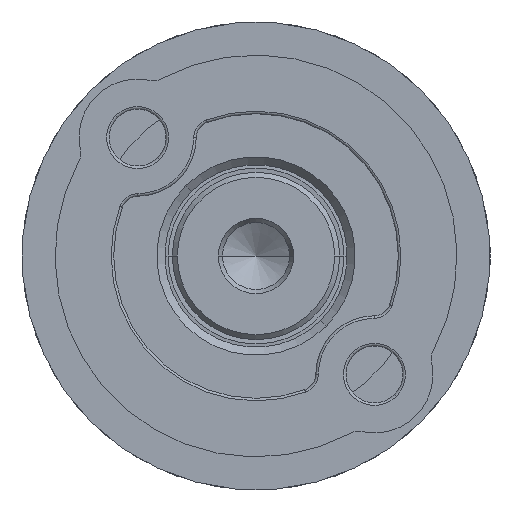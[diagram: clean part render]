
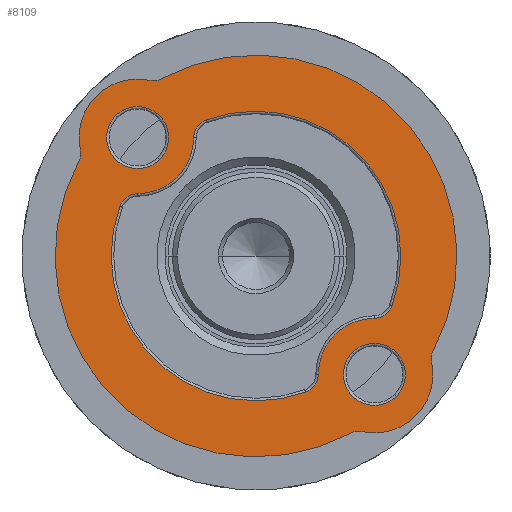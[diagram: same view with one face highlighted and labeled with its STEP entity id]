
A CAD part, left-side view. The second image highlights one B-rep face of the part: STEP entity #8109.
In plain terms, the highlighted planar face has unit normal (-1, 0, 0).
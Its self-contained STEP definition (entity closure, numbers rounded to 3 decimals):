
#5858=CARTESIAN_POINT('',(-2.05,-10.,0.));
#5859=DIRECTION('',(-1.,0.,0.));
#5860=DIRECTION('',(0.,-0.542,-0.841));
#5861=AXIS2_PLACEMENT_3D('',#5858,#5859,#5860);
#5866=CARTESIAN_POINT('',(-2.05,0.,0.));
#5867=DIRECTION('',(-1.,0.,0.));
#5868=DIRECTION('',(0.,0.957,-0.291));
#5869=AXIS2_PLACEMENT_3D('',#5866,#5867,#5868);
#5874=CARTESIAN_POINT('',(-2.05,10.,0.));
#5875=DIRECTION('',(-1.,0.,0.));
#5876=DIRECTION('',(0.,0.542,0.841));
#5877=AXIS2_PLACEMENT_3D('',#5874,#5875,#5876);
#5882=CARTESIAN_POINT('',(-2.05,0.,0.));
#5883=DIRECTION('',(-1.,0.,0.));
#5884=DIRECTION('',(0.,-0.957,0.291));
#5885=AXIS2_PLACEMENT_3D('',#5882,#5883,#5884);
#5890=CARTESIAN_POINT('',(-2.05,10.,0.));
#5891=DIRECTION('',(-1.,0.,0.));
#5892=DIRECTION('',(0.,-0.711,-0.703));
#5893=AXIS2_PLACEMENT_3D('',#5890,#5891,#5892);
#5898=CARTESIAN_POINT('',(-2.05,6.8,-3.164));
#5899=DIRECTION('',(1.,0.,0.));
#5900=DIRECTION('',(0.,0.907,-0.422));
#5901=AXIS2_PLACEMENT_3D('',#5898,#5899,#5900);
#5906=CARTESIAN_POINT('',(-2.05,0.,0.));
#5907=DIRECTION('',(1.,0.,0.));
#5908=DIRECTION('',(0.,-0.907,-0.422));
#5909=AXIS2_PLACEMENT_3D('',#5906,#5907,#5908);
#5914=CARTESIAN_POINT('',(-2.05,-6.8,-3.164));
#5915=DIRECTION('',(1.,0.,0.));
#5916=DIRECTION('',(0.,-0.711,0.703));
#5917=AXIS2_PLACEMENT_3D('',#5914,#5915,#5916);
#5922=CARTESIAN_POINT('',(-2.05,-10.,0.));
#5923=DIRECTION('',(-1.,0.,0.));
#5924=DIRECTION('',(0.,0.711,0.703));
#5925=AXIS2_PLACEMENT_3D('',#5922,#5923,#5924);
#5930=CARTESIAN_POINT('',(-2.05,-6.8,3.164));
#5931=DIRECTION('',(1.,0.,0.));
#5932=DIRECTION('',(0.,-0.907,0.422));
#5933=AXIS2_PLACEMENT_3D('',#5930,#5931,#5932);
#5938=CARTESIAN_POINT('',(-2.05,0.,0.));
#5939=DIRECTION('',(1.,0.,0.));
#5940=DIRECTION('',(0.,0.907,0.422));
#5941=AXIS2_PLACEMENT_3D('',#5938,#5939,#5940);
#5946=CARTESIAN_POINT('',(-2.05,6.8,3.164));
#5947=DIRECTION('',(1.,0.,0.));
#5948=DIRECTION('',(0.,0.711,-0.703));
#5949=AXIS2_PLACEMENT_3D('',#5946,#5947,#5948);
#5954=CARTESIAN_POINT('',(-2.05,-10.,0.));
#5955=DIRECTION('',(1.,0.,0.));
#5956=DIRECTION('',(0.,-1.,0.));
#5957=AXIS2_PLACEMENT_3D('',#5954,#5955,#5956);
#5962=CARTESIAN_POINT('',(-2.05,-10.,0.));
#5963=DIRECTION('',(1.,0.,0.));
#5964=DIRECTION('',(0.,1.,0.));
#5965=AXIS2_PLACEMENT_3D('',#5962,#5963,#5964);
#5970=CARTESIAN_POINT('',(-2.05,10.,0.));
#5971=DIRECTION('',(1.,0.,0.));
#5972=DIRECTION('',(0.,-1.,0.));
#5973=AXIS2_PLACEMENT_3D('',#5970,#5971,#5972);
#5978=CARTESIAN_POINT('',(-2.05,10.,0.));
#5979=DIRECTION('',(1.,0.,0.));
#5980=DIRECTION('',(0.,1.,0.));
#5981=AXIS2_PLACEMENT_3D('',#5978,#5979,#5980);
#6000=CARTESIAN_POINT('',(-2.05,-12.438,-3.783));
#6001=DIRECTION('',(1.,0.,0.));
#6002=DIRECTION('',(0.,0.957,0.291));
#6003=AXIS2_PLACEMENT_3D('',#6000,#6001,#6002);
#6022=CARTESIAN_POINT('',(-2.05,12.438,-3.783));
#6023=DIRECTION('',(1.,0.,0.));
#6024=DIRECTION('',(0.,-0.542,0.841));
#6025=AXIS2_PLACEMENT_3D('',#6022,#6023,#6024);
#6044=CARTESIAN_POINT('',(-2.05,12.438,3.783));
#6045=DIRECTION('',(1.,0.,0.));
#6046=DIRECTION('',(0.,-0.957,-0.291));
#6047=AXIS2_PLACEMENT_3D('',#6044,#6045,#6046);
#6066=CARTESIAN_POINT('',(-2.05,-12.438,3.783));
#6067=DIRECTION('',(1.,0.,0.));
#6068=DIRECTION('',(0.,0.542,-0.841));
#6069=AXIS2_PLACEMENT_3D('',#6066,#6067,#6068);
#7295=CARTESIAN_POINT('',(-2.05,11.896,-2.942));
#7296=VERTEX_POINT('',#7295);
#7297=CARTESIAN_POINT('',(-2.05,11.481,-3.492));
#7298=VERTEX_POINT('',#7297);
#7303=CARTESIAN_POINT('',(-2.05,11.481,3.492));
#7304=VERTEX_POINT('',#7303);
#7305=CARTESIAN_POINT('',(-2.05,11.896,2.942));
#7306=VERTEX_POINT('',#7305);
#7311=CARTESIAN_POINT('',(-2.05,-11.896,2.942));
#7312=VERTEX_POINT('',#7311);
#7313=CARTESIAN_POINT('',(-2.05,-11.481,3.492));
#7314=VERTEX_POINT('',#7313);
#7319=CARTESIAN_POINT('',(-2.05,-11.481,-3.492));
#7320=VERTEX_POINT('',#7319);
#7321=CARTESIAN_POINT('',(-2.05,-11.896,-2.942));
#7322=VERTEX_POINT('',#7321);
#7423=CARTESIAN_POINT('',(-2.05,7.618,-2.355));
#7424=CARTESIAN_POINT('',(-2.05,7.618,2.355));
#7425=VERTEX_POINT('',#7423);
#7426=VERTEX_POINT('',#7424);
#7427=CARTESIAN_POINT('',(-2.05,7.843,
-3.649));
#7428=VERTEX_POINT('',#7427);
#7431=CARTESIAN_POINT('',(-2.05,-7.843,-3.649));
#7432=VERTEX_POINT('',#7431);
#7435=CARTESIAN_POINT('',(-2.05,-11.85,0.));
#7436=CARTESIAN_POINT('',(-2.05,-8.15,0.));
#7437=VERTEX_POINT('',#7435);
#7438=VERTEX_POINT('',#7436);
#7443=CARTESIAN_POINT('',(-2.05,8.15,0.));
#7444=CARTESIAN_POINT('',(-2.05,11.85,0.));
#7445=VERTEX_POINT('',#7443);
#7446=VERTEX_POINT('',#7444);
#7555=CARTESIAN_POINT('',(-2.05,-7.618,2.355));
#7556=CARTESIAN_POINT('',(-2.05,-7.618,-2.355));
#7557=VERTEX_POINT('',#7555);
#7558=VERTEX_POINT('',#7556);
#7563=CARTESIAN_POINT('',(-2.05,7.843,3.649));
#7564=VERTEX_POINT('',#7563);
#7567=CARTESIAN_POINT('',(-2.05,-7.843,3.649));
#7568=VERTEX_POINT('',#7567);
#8057=CARTESIAN_POINT('',(-2.05,0.,0.));
#8058=DIRECTION('',(1.,0.,0.));
#8059=DIRECTION('',(0.,-1.,0.));
#8060=AXIS2_PLACEMENT_3D('',#8057,#8058,#8059);
#8061=PLANE('',#8060);
#8063=ORIENTED_EDGE('',*,*,#8062,.F.);
#8065=ORIENTED_EDGE('',*,*,#8064,.F.);
#8067=ORIENTED_EDGE('',*,*,#8066,.F.);
#8069=ORIENTED_EDGE('',*,*,#8068,.F.);
#8071=ORIENTED_EDGE('',*,*,#8070,.F.);
#8073=ORIENTED_EDGE('',*,*,#8072,.F.);
#8075=ORIENTED_EDGE('',*,*,#8074,.F.);
#8077=ORIENTED_EDGE('',*,*,#8076,.F.);
#8078=EDGE_LOOP('',(#8063,#8065,#8067,#8069,#8071,#8073,#8075,#8077));
#8079=FACE_OUTER_BOUND('',#8078,.F.);
#8081=ORIENTED_EDGE('',*,*,#8080,.F.);
#8083=ORIENTED_EDGE('',*,*,#8082,.F.);
#8085=ORIENTED_EDGE('',*,*,#8084,.F.);
#8087=ORIENTED_EDGE('',*,*,#8086,.F.);
#8089=ORIENTED_EDGE('',*,*,#8088,.F.);
#8091=ORIENTED_EDGE('',*,*,#8090,.F.);
#8093=ORIENTED_EDGE('',*,*,#8092,.F.);
#8095=ORIENTED_EDGE('',*,*,#8094,.F.);
#8096=EDGE_LOOP('',(#8081,#8083,#8085,#8087,#8089,#8091,#8093,#8095));
#8097=FACE_BOUND('',#8096,.F.);
#8099=ORIENTED_EDGE('',*,*,#8098,.F.);
#8101=ORIENTED_EDGE('',*,*,#8100,.F.);
#8102=EDGE_LOOP('',(#8099,#8101));
#8103=FACE_BOUND('',#8102,.F.);
#8105=ORIENTED_EDGE('',*,*,#8104,.F.);
#8106=ORIENTED_EDGE('',*,*,#8047,.F.);
#8107=EDGE_LOOP('',(#8105,#8106));
#8108=FACE_BOUND('',#8107,.F.);
#5862=CIRCLE('',#5861,3.5);
#5870=CIRCLE('',#5869,12.);
#5878=CIRCLE('',#5877,3.5);
#5886=CIRCLE('',#5885,12.);
#5894=CIRCLE('',#5893,3.35);
#5902=CIRCLE('',#5901,1.15);
#5910=CIRCLE('',#5909,8.65);
#5918=CIRCLE('',#5917,1.15);
#5926=CIRCLE('',#5925,3.35);
#5934=CIRCLE('',#5933,1.15);
#5942=CIRCLE('',#5941,8.65);
#5950=CIRCLE('',#5949,1.15);
#5958=CIRCLE('',#5957,1.85);
#5966=CIRCLE('',#5965,1.85);
#5974=CIRCLE('',#5973,1.85);
#5982=CIRCLE('',#5981,1.85);
#6004=CIRCLE('',#6003,1.);
#6026=CIRCLE('',#6025,1.);
#6048=CIRCLE('',#6047,1.);
#6070=CIRCLE('',#6069,1.);
#8047=EDGE_CURVE('',#7446,#7445,#5982,.T.);
#8062=EDGE_CURVE('',#7322,#7312,#5862,.T.);
#8064=EDGE_CURVE('',#7320,#7322,#6004,.T.);
#8066=EDGE_CURVE('',#7298,#7320,#5870,.T.);
#8068=EDGE_CURVE('',#7296,#7298,#6026,.T.);
#8070=EDGE_CURVE('',#7306,#7296,#5878,.T.);
#8072=EDGE_CURVE('',#7304,#7306,#6048,.T.);
#8074=EDGE_CURVE('',#7314,#7304,#5886,.T.);
#8076=EDGE_CURVE('',#7312,#7314,#6070,.T.);
#8080=EDGE_CURVE('',#7425,#7426,#5894,.T.);
#8082=EDGE_CURVE('',#7428,#7425,#5902,.T.);
#8084=EDGE_CURVE('',#7432,#7428,#5910,.T.);
#8086=EDGE_CURVE('',#7558,#7432,#5918,.T.);
#8088=EDGE_CURVE('',#7557,#7558,#5926,.T.);
#8090=EDGE_CURVE('',#7568,#7557,#5934,.T.);
#8092=EDGE_CURVE('',#7564,#7568,#5942,.T.);
#8094=EDGE_CURVE('',#7426,#7564,#5950,.T.);
#8098=EDGE_CURVE('',#7437,#7438,#5958,.T.);
#8100=EDGE_CURVE('',#7438,#7437,#5966,.T.);
#8104=EDGE_CURVE('',#7445,#7446,#5974,.T.);
#8109=ADVANCED_FACE('',(#8079,#8097,#8103,#8108),#8061,.F.);
